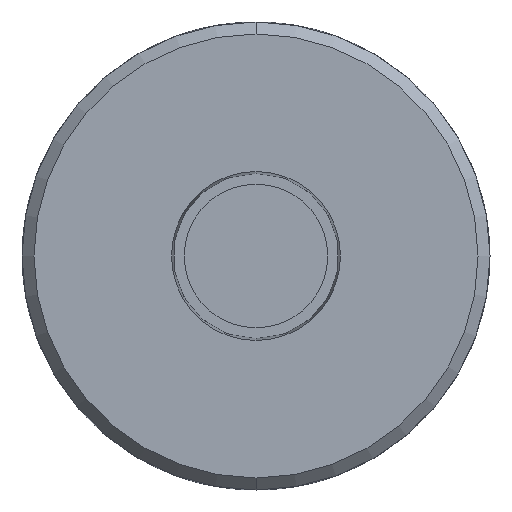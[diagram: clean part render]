
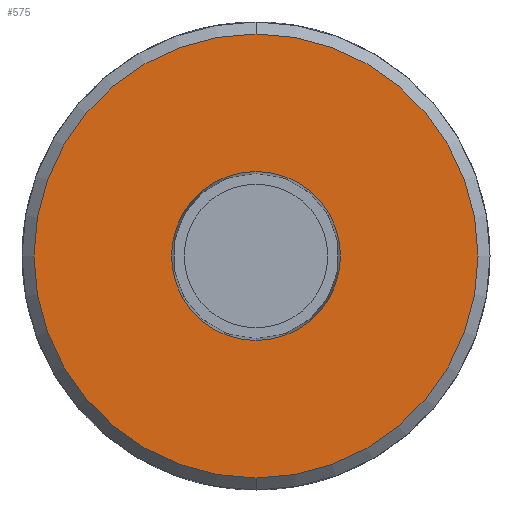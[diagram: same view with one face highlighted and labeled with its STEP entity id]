
A CAD part, front view. The second image highlights one B-rep face of the part: STEP entity #575.
In plain terms, the highlighted planar face has unit normal (0, -1, 0).
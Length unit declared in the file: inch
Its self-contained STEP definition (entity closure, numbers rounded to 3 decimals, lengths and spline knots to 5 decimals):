
#29 = VERTEX_POINT ( 'NONE', #4077 ) ;
#223 = VERTEX_POINT ( 'NONE', #1606 ) ;
#225 = EDGE_CURVE ( 'NONE', #226, #223, #1725, .T. ) ;
#226 = VERTEX_POINT ( 'NONE', #1720 ) ;
#453 = EDGE_CURVE ( 'NONE', #223, #226, #2343, .T. ) ;
#457 = EDGE_LOOP ( 'NONE', ( #458, #460 ) ) ;
#458 = ORIENTED_EDGE ( 'NONE', *, *, #459, .T. ) ;
#459 = EDGE_CURVE ( 'NONE', #29, #613, #2435, .T. ) ;
#460 = ORIENTED_EDGE ( 'NONE', *, *, #602, .T. ) ;
#461 = EDGE_LOOP ( 'NONE', ( #462, #534 ) ) ;
#462 = ORIENTED_EDGE ( 'NONE', *, *, #225, .T. ) ;
#534 = ORIENTED_EDGE ( 'NONE', *, *, #453, .T. ) ;
#575 = ADVANCED_FACE ( 'NONE', ( #2635, #2634 ), #2633, .F. ) ;
#602 = EDGE_CURVE ( 'NONE', #613, #29, #2890, .T. ) ;
#613 = VERTEX_POINT ( 'NONE', #2847 ) ;
#1606 = CARTESIAN_POINT ( 'NONE',  ( 0., 0., -0.4225 ) ) ;
#1720 = CARTESIAN_POINT ( 'NONE',  ( 0., 0., 0.4225 ) ) ;
#1721 = DIRECTION ( 'NONE',  ( 0., 0., 1. ) ) ;
#1722 = DIRECTION ( 'NONE',  ( 0., 1., 0. ) ) ;
#1723 = CARTESIAN_POINT ( 'NONE',  ( 0., 0., 0. ) ) ;
#1724 = AXIS2_PLACEMENT_3D ( 'NONE', #1723, #1722, #1721 ) ;
#1725 = CIRCLE ( 'NONE', #1724, 0.4225 ) ;
#2336 = DIRECTION ( 'NONE',  ( 0., 0., 1. ) ) ;
#2337 = DIRECTION ( 'NONE',  ( 0., 1., 0. ) ) ;
#2338 = CARTESIAN_POINT ( 'NONE',  ( 0., 0., 0. ) ) ;
#2339 = AXIS2_PLACEMENT_3D ( 'NONE', #2338, #2337, #2336 ) ;
#2343 = CIRCLE ( 'NONE', #2339, 0.4225 ) ;
#2431 = DIRECTION ( 'NONE',  ( 0., 0., 1. ) ) ;
#2432 = DIRECTION ( 'NONE',  ( 0., -1., 0. ) ) ;
#2433 = CARTESIAN_POINT ( 'NONE',  ( 0., 0., 0. ) ) ;
#2434 = AXIS2_PLACEMENT_3D ( 'NONE', #2433, #2432, #2431 ) ;
#2435 = CIRCLE ( 'NONE', #2434, 1.11 ) ;
#2628 = DIRECTION ( 'NONE',  ( 0., 0., 1. ) ) ;
#2629 = DIRECTION ( 'NONE',  ( 0., 1., 0. ) ) ;
#2630 = AXIS2_PLACEMENT_3D ( 'NONE', #2632, #2629, #2628 ) ;
#2632 = CARTESIAN_POINT ( 'NONE',  ( 0., 0., 0. ) ) ;
#2633 = PLANE ( 'NONE',  #2630 ) ;
#2634 = FACE_BOUND ( 'NONE', #461, .T. ) ;
#2635 = FACE_OUTER_BOUND ( 'NONE', #457, .T. ) ;
#2786 = DIRECTION ( 'NONE',  ( 0., 0., 1. ) ) ;
#2798 = AXIS2_PLACEMENT_3D ( 'NONE', #2840, #2839, #2786 ) ;
#2839 = DIRECTION ( 'NONE',  ( 0., -1., 0. ) ) ;
#2840 = CARTESIAN_POINT ( 'NONE',  ( 0., 0., 0. ) ) ;
#2847 = CARTESIAN_POINT ( 'NONE',  ( 0., 0., -1.11 ) ) ;
#2890 = CIRCLE ( 'NONE', #2798, 1.11 ) ;
#4077 = CARTESIAN_POINT ( 'NONE',  ( 0., 0., 1.11 ) ) ;
